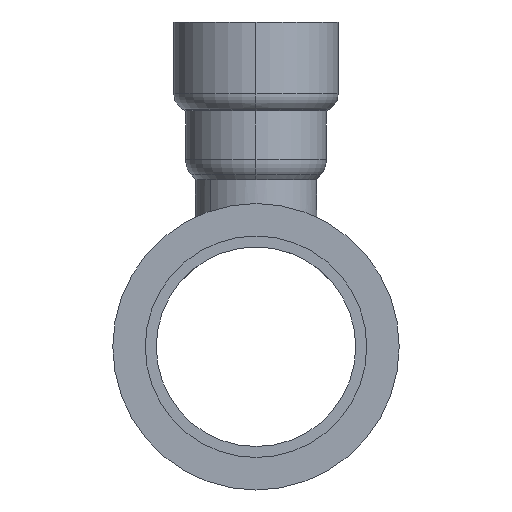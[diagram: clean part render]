
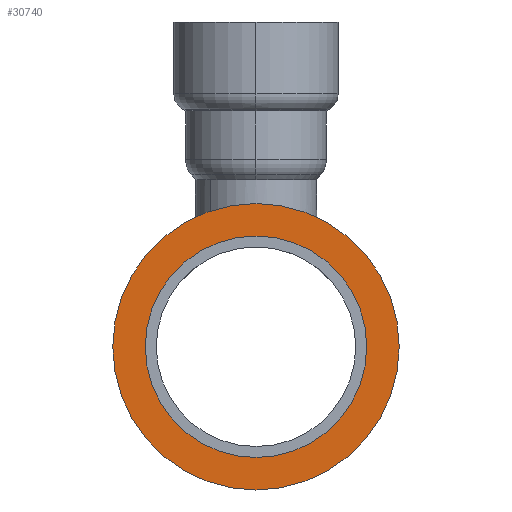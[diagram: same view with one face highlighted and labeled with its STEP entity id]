
A CAD part, left-side view. The second image highlights one B-rep face of the part: STEP entity #30740.
In plain terms, the highlighted planar face has unit normal (-1, 0, 0).
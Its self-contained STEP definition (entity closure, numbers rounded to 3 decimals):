
#30260=CARTESIAN_POINT('',(55.082,52.567,-21.65));
#30270=VERTEX_POINT('',#30260);
#30300=CARTESIAN_POINT('',(55.082,52.567,0.));
#30310=DIRECTION('',(1.,0.,0.));
#30320=DIRECTION('',(0.,0.,1.));
#30330=AXIS2_PLACEMENT_3D('',#30300,#30310,#30320);
#30340=CIRCLE('',#30330,21.65);
#30350=CARTESIAN_POINT('',(55.082,52.567,21.65));
#30360=VERTEX_POINT('',#30350);
#30370=EDGE_CURVE('',#30270,#30360,#30340,.T.);
#30490=CARTESIAN_POINT('',(55.082,52.567,26.425));
#30500=DIRECTION('',(-1.,0.,0.));
#30510=DIRECTION('',(0.,0.,1.));
#30520=AXIS2_PLACEMENT_3D('',#30490,#30500,#30510);
#30530=PLANE('',#30520);
#30540=EDGE_CURVE('',#30360,#30270,#30340,.T.);
#30550=ORIENTED_EDGE('',*,*,#30540,.T.);
#30560=ORIENTED_EDGE('',*,*,#30370,.T.);
#30570=EDGE_LOOP('',(#30560,#30550));
#30580=FACE_BOUND('',#30570,.T.);
#30590=CARTESIAN_POINT('',(55.082,52.567,0.));
#30600=DIRECTION('',(1.,0.,0.));
#30610=DIRECTION('',(0.,0.,1.));
#30620=AXIS2_PLACEMENT_3D('',#30590,#30600,#30610);
#30630=CIRCLE('',#30620,28.);
#30640=CARTESIAN_POINT('',(55.082,52.567,28.));
#30650=VERTEX_POINT('',#30640);
#30660=CARTESIAN_POINT('',(55.082,52.567,-28.));
#30670=VERTEX_POINT('',#30660);
#30680=EDGE_CURVE('',#30650,#30670,#30630,.T.);
#30690=ORIENTED_EDGE('',*,*,#30680,.F.);
#30700=EDGE_CURVE('',#30670,#30650,#30630,.T.);
#30710=ORIENTED_EDGE('',*,*,#30700,.F.);
#30720=EDGE_LOOP('',(#30710,#30690));
#30730=FACE_OUTER_BOUND('',#30720,.T.);
#30740=ADVANCED_FACE('',(#30580,#30730),#30530,.T.);
